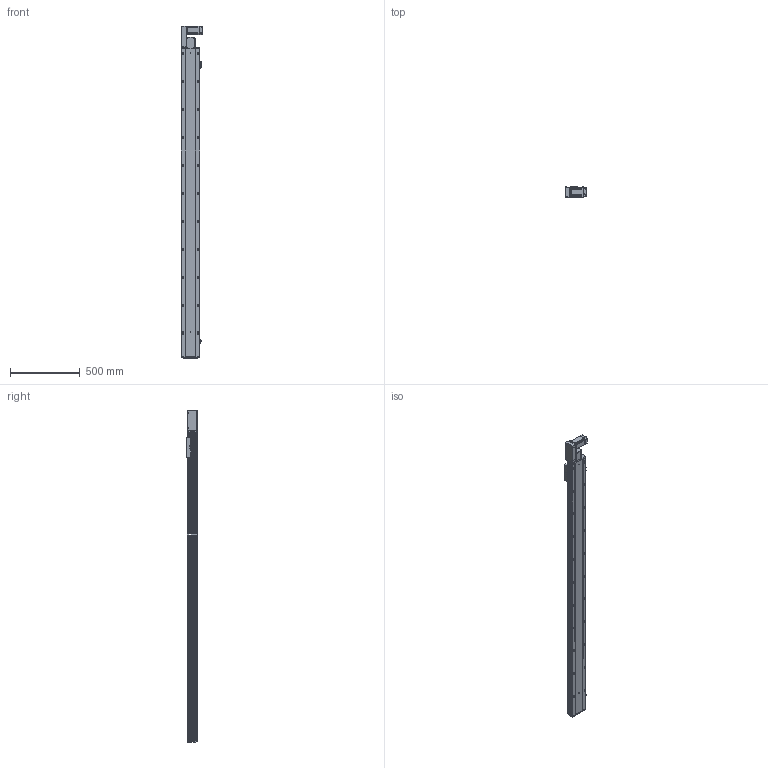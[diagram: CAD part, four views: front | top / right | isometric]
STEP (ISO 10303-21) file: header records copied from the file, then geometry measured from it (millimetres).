
FILE_DESCRIPTION (( 'STEP AP203' ), '1' );
FILE_NAME ('RY140-T-300-LK.SLDASM_1950.step', '2021-03-01T06:36:58', ( '盈信电脑' ), ( '东莞市道滘镇水果街19号' ), 'SwSTEP 2.0', 'SolidWorks 2012', '' );
FILE_SCHEMA (( 'CONFIG_CONTROL_DESIGN' ));
Products named in the file (18): RY140-T翋肮謫裔啣; RY140-T-300-LK.SLDASM_1950; 滅袉蝶18-10; RY120-T蹟翐M4; RY140-T萇儂欶; RY140-T萇儂假蚾啣; 侂狟400W侜督萇儂; RY120-T主同步轮轴承压盖; 15; RY120-T肮祭湍揤踡輸1; RY120外置感应片(140共用）; RY140-T翋肮祭謫盓傅釱; RY120-T肮祭湍揤踡輸2; 覜茼ん672; RY140綴裔啣; RY140-T-300-DL倰第奻裔啣_1950; RY140肮祭謫臏賑輸; RY140-T-300-DL倰第菁釱_1950
Assembly tree (23 placements, depth 3):
  RY140-T-300-LK.SLDASM_1950
    RY140-T-300-DL倰第菁釱_1950
    RY140肮祭謫臏賑輸
    RY140-T-300-DL倰第奻裔啣_1950
    RY140綴裔啣
    覜茼ん672  x3
    RY120外置感应片(140共用）
    RY120-T肮祭湍揤踡輸2
    RY120-T肮祭湍揤踡輸1
    RY140-T翋肮祭謫盓傅釱
    RY140-T萇儂假蚾啣
    侂狟400W侜督萇儂
      15
    RY120-T主同步轮轴承压盖
    RY120-T蹟翐M4  x4
    RY140-T萇儂欶
    滅袉蝶18-10  x2
    RY140-T翋肮謫裔啣
Bounding box: 157 x 78 x 2376.5 mm (x, y, z)
Volume: 6269734 mm3; surface area: 2451875.6 mm2
Topology: 22 solids, 22 shells, 2863 faces, 7857 edges, 5000 vertices
Faces by surface type: plane 1381, cylinder 1096, cone 286, bspline 100
Entity records: 90517 total; most frequent: CARTESIAN_POINT 21975, ORIENTED_EDGE 14074, DIRECTION 13465, EDGE_CURVE 7037, VERTEX_POINT 4599, AXIS2_PLACEMENT_3D 4528, VECTOR 4409, LINE 4409
